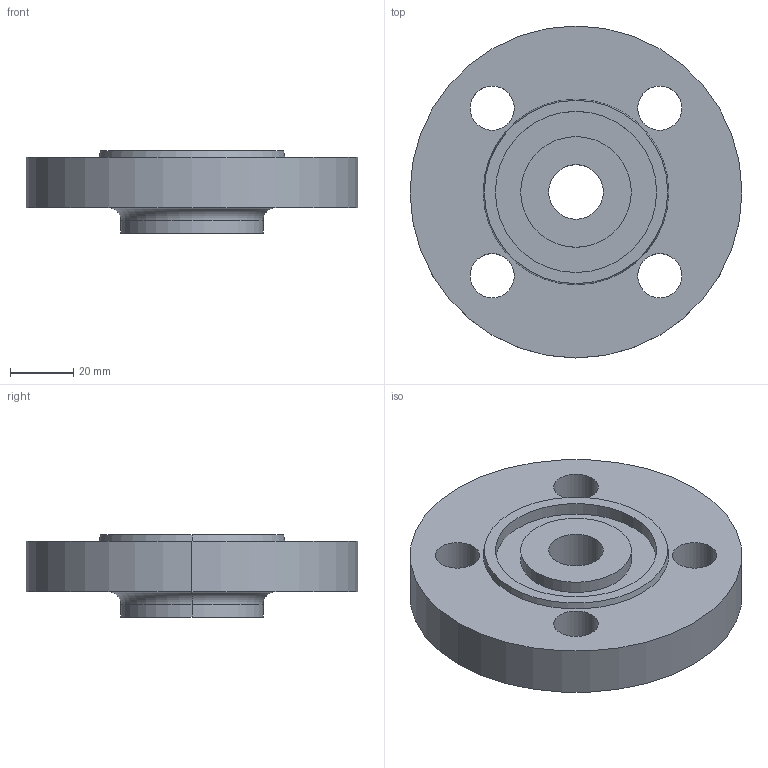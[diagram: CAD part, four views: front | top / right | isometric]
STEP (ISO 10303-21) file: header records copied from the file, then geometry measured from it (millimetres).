
FILE_DESCRIPTION (( 'STEP AP214' ), '1' );
FILE_NAME ('PN40 DN20 Type 13 - Type D Face.STEP', '2018-12-30T04:09:50', ( '' ), ( '' ), 'SwSTEP 2.0', 'SolidWorks 2019', '' );
FILE_SCHEMA (( 'AUTOMOTIVE_DESIGN' ));
Length unit declared in the file: millimetre
Products named in the file (1): PN40 DN20 Type 13 - Type D Face
Bounding box: 105 x 105 x 26 mm (x, y, z)
Volume: 136838.8 mm3; surface area: 27405.8 mm2
Topology: 1 solids, 1 shells, 28 faces, 64 edges, 42 vertices
Faces by surface type: cylinder 18, plane 6, torus 2, cone 2
Entity records: 870 total; most frequent: DIRECTION 166, CARTESIAN_POINT 135, ORIENTED_EDGE 128, AXIS2_PLACEMENT_3D 73, EDGE_CURVE 64, CIRCLE 44, VERTEX_POINT 42, EDGE_LOOP 42
